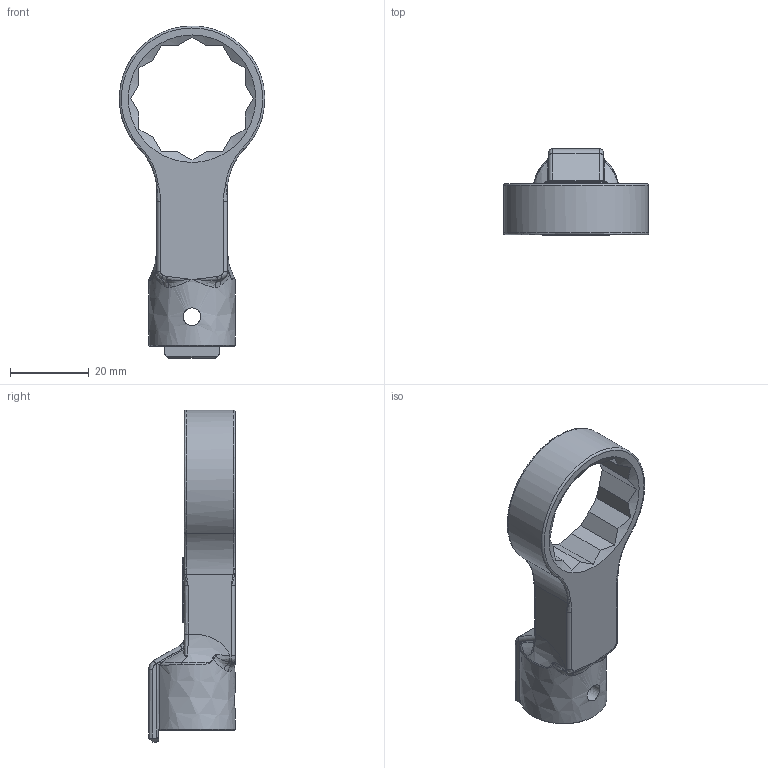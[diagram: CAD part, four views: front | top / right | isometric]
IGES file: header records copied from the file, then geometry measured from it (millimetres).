
Global section: file name: RH15DX27; native system: Autodesk Inventor 2016; preprocessor: unknown; author: Q600; date: 20151110.161417; units: millimetre
Bounding box: 36.97 x 22 x 84.5 mm (x, y, z)
Volume: 15688.5 mm3; surface area: 7622.2 mm2
Topology: 1 solids, 1 shells, 166 faces, 435 edges, 256 vertices
Faces by surface type: bspline 166
